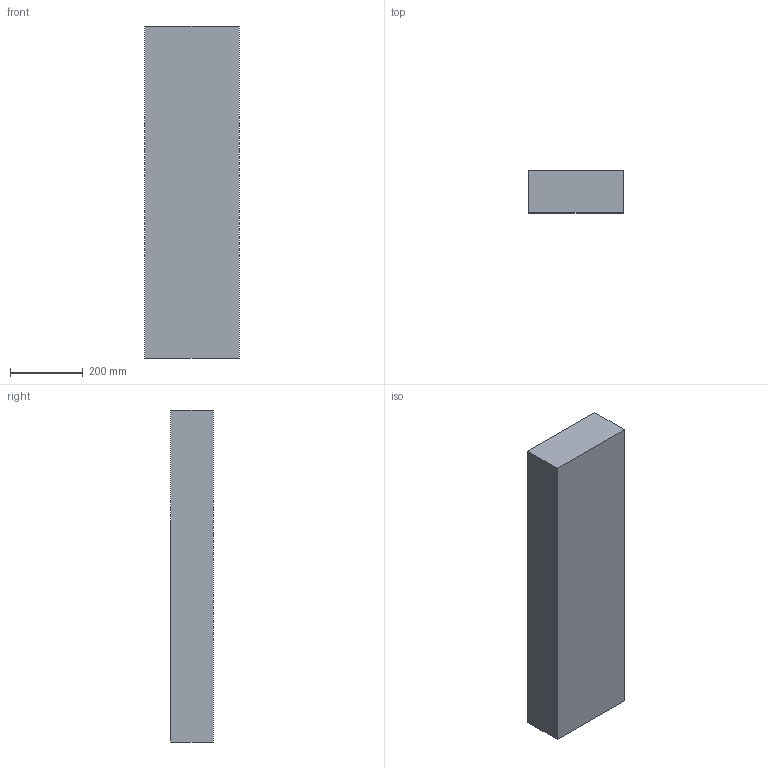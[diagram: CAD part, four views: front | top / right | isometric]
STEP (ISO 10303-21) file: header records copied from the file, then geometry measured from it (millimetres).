
FILE_DESCRIPTION (( 'STEP AP203' ), '1' );
FILE_NAME ('RF2-90-C.STEP', '2024-03-25T11:09:29', ( '' ), ( '' ), 'SwSTEP 2.0', 'SolidWorks 2021', '' );
FILE_SCHEMA (( 'CONFIG_CONTROL_DESIGN' ));
Length unit declared in the file: millimetre
Products named in the file (1): RF2-90-C
Bounding box: 260 x 116 x 910 mm (x, y, z)
Volume: 27380000.2 mm3; surface area: 759361.4 mm2
Topology: 1 solids, 1 shells, 94 faces, 243 edges, 162 vertices
Faces by surface type: plane 58, bspline 36
Entity records: 5084 total; most frequent: CARTESIAN_POINT 2952, ORIENTED_EDGE 486, DIRECTION 289, EDGE_CURVE 243, VECTOR 171, LINE 171, VERTEX_POINT 162, EDGE_LOOP 105
